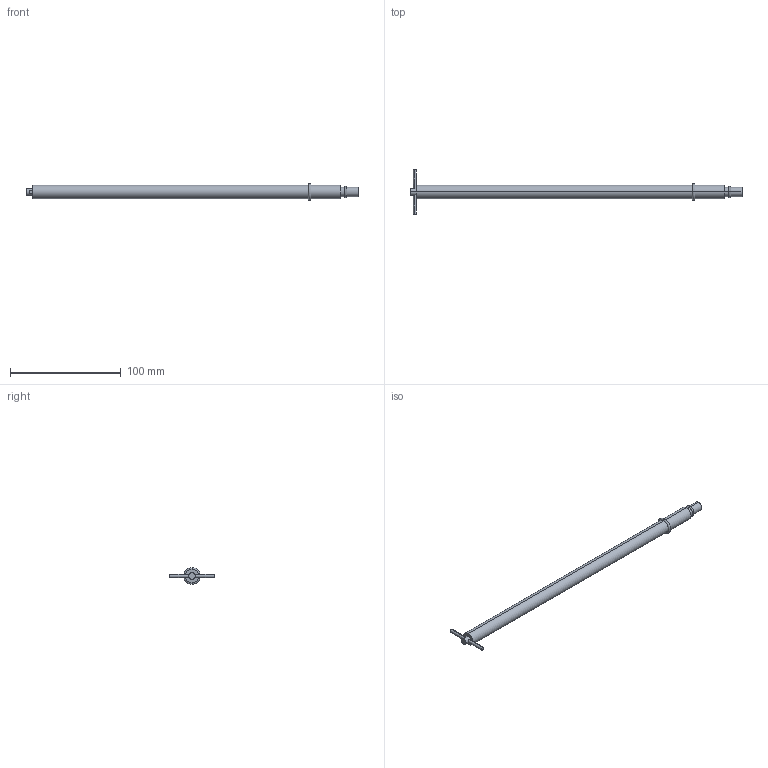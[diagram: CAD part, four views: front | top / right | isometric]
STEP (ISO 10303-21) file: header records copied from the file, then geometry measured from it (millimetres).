
FILE_DESCRIPTION (( 'STEP AP214' ), '1' );
FILE_NAME ('BRWV-312.STEP', '2020-06-23T10:53:26', ( '' ), ( '' ), 'SwSTEP 2.0', 'SolidWorks 2018', '' );
FILE_SCHEMA (( 'AUTOMOTIVE_DESIGN' ));
Length unit declared in the file: millimetre
Products named in the file (1): BRWV-312
Bounding box: 300 x 40 x 15.13 mm (x, y, z)
Volume: 32884.2 mm3; surface area: 11940.1 mm2
Topology: 1 solids, 1 shells, 27 faces, 52 edges, 32 vertices
Faces by surface type: cylinder 16, plane 7, torus 4
Entity records: 820 total; most frequent: CARTESIAN_POINT 212, DIRECTION 136, ORIENTED_EDGE 104, AXIS2_PLACEMENT_3D 60, EDGE_CURVE 52, VERTEX_POINT 32, CIRCLE 32, EDGE_LOOP 32
